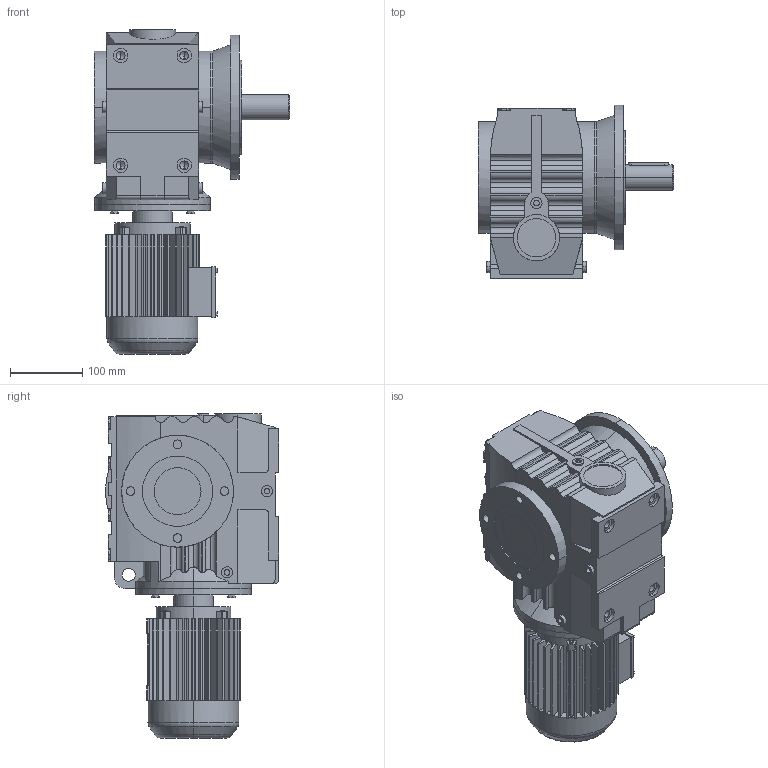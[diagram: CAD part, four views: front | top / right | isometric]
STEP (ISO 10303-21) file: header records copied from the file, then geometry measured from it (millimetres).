
FILE_DESCRIPTION(('Open CASCADE Model'),'2;1');
FILE_NAME('Open CASCADE Shape Model','2021-07-20T10:58:59',('Author'),( 'Open CASCADE'),'Open CASCADE STEP processor 6.3','Open CASCADE 6.3' ,'Unknown');
FILE_SCHEMA(('AUTOMOTIVE_DESIGN_CC2 { 1 2 10303 214 -1 1 5 4 }'));
Length unit declared in the file: millimetre
Products named in the file (5): 1_SF67-Y63S-A; SA47‵97_67.step; 萇儂_160_Y63S.step; す瑩妗陑粣S_67_SF.step; 楊擘S_67_200_SF.step
Assembly tree (4 placements, depth 2):
  1_SF67-Y63S-A
    SA47‵97_67.step
    萇儂_160_Y63S.step
    す瑩妗陑粣S_67_SF.step
    楊擘S_67_200_SF.step
Bounding box: 270.5 x 240 x 449 mm (x, y, z)
Volume: 10141007.3 mm3; surface area: 671153.7 mm2
Topology: 4 solids, 4 shells, 839 faces, 2194 edges, 1415 vertices
Faces by surface type: plane 528, cylinder 282, cone 25, torus 4
Entity records: 62739 total; most frequent: CARTESIAN_POINT 21684, DIRECTION 6948, ORIENTED_EDGE 4368, PCURVE 4368, DEFINITIONAL_REPRESENTATION 4368, LINE 3522, VECTOR 3522, EDGE_CURVE 2184
